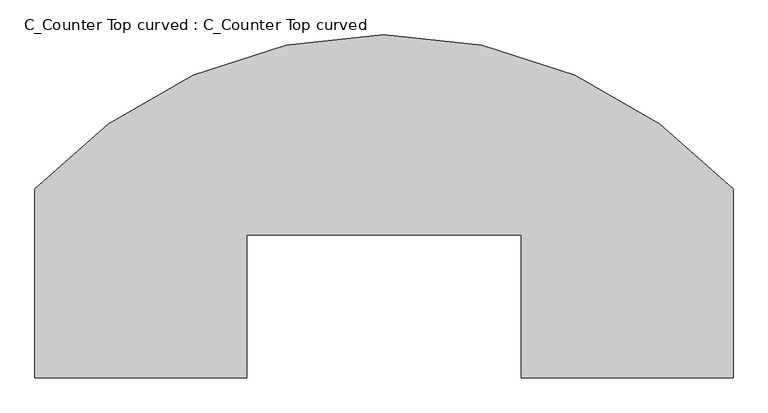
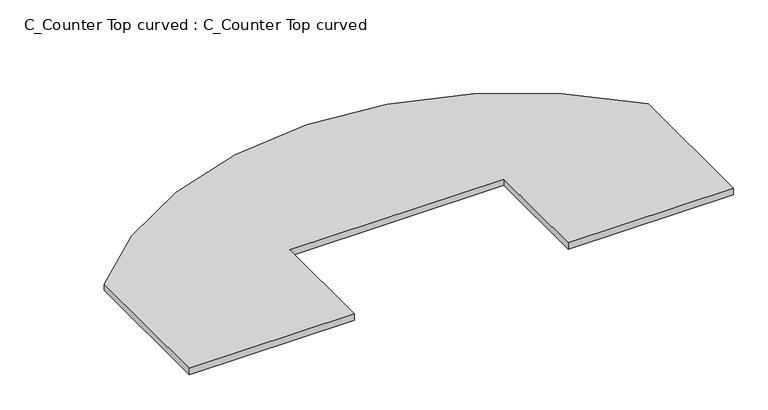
"""IFC4 building model written with IfcOpenShell, lengths in millimetres: furniture geometry, C_Counter Top curved : C_Counter Top curved."""

from ifc_helpers import new_model, si_unit, point, frame_2d, origin, origin_with_axes, place, context, project, spatial, polyline, circle_curve, trimmed, segment, composite_curve, outline, extrude, source, transform, mapped, element, save


def c_counter_top_curved_c_counter_top_curved_6a2d19db(model_context):
    return source(origin(), model_context, "Body", "SweptSolid", [
        extrude(outline(composite_curve([segment(polyline([(-1549.4, -635.0), (-1549.4, 203.2)]), True, "CONTINUOUS"), segment(trimmed(circle_curve(frame_2d((0.0, -1203.8291519)), 2092.9336813), [point((-1549.4, 203.2))], [point((1549.4, 203.2))], False, "CARTESIAN"), True, "CONTINUOUS"), segment(polyline([(1549.4, 203.2), (1549.4, -635.0), (609.6, -635.0), (609.6, 0.0), (-609.6, 0.0), (-609.6, -635.0), (-1549.4, -635.0)]), True, "CONTINUOUS")], self_intersect=False)), origin_with_axes(), (0.0, 0.0, 1.0), 38.1),
    ])


if __name__ == "__main__":
    model = new_model("IFC4")
    model_context = context("Model", 3, world=origin())
    ifc_project = project(units=[si_unit("LENGTHUNIT", "METRE", prefix="MILLI")], contexts=[model_context])
    site = spatial("IfcSite", under=ifc_project)
    building = spatial("IfcBuilding", under=site)
    placement = place(None, origin())
    c_counter_top_curved_c_counter_top_curved_shape = c_counter_top_curved_c_counter_top_curved_6a2d19db(model_context)
    element("IfcFurniture", 1, ObjectType="C_Counter Top curved : C_Counter Top curved", at=placement, inside=building, context=model_context, shape_type="MappedRepresentation", body=[
        mapped(c_counter_top_curved_c_counter_top_curved_shape, transform((0.0, 0.0, 0.0), x_axis=(1.0, 0.0, 0.0), y_axis=(0.0, 1.0, 0.0), z_axis=(0.0, 0.0, 1.0))),
    ])
    save(model, "model.ifc")
